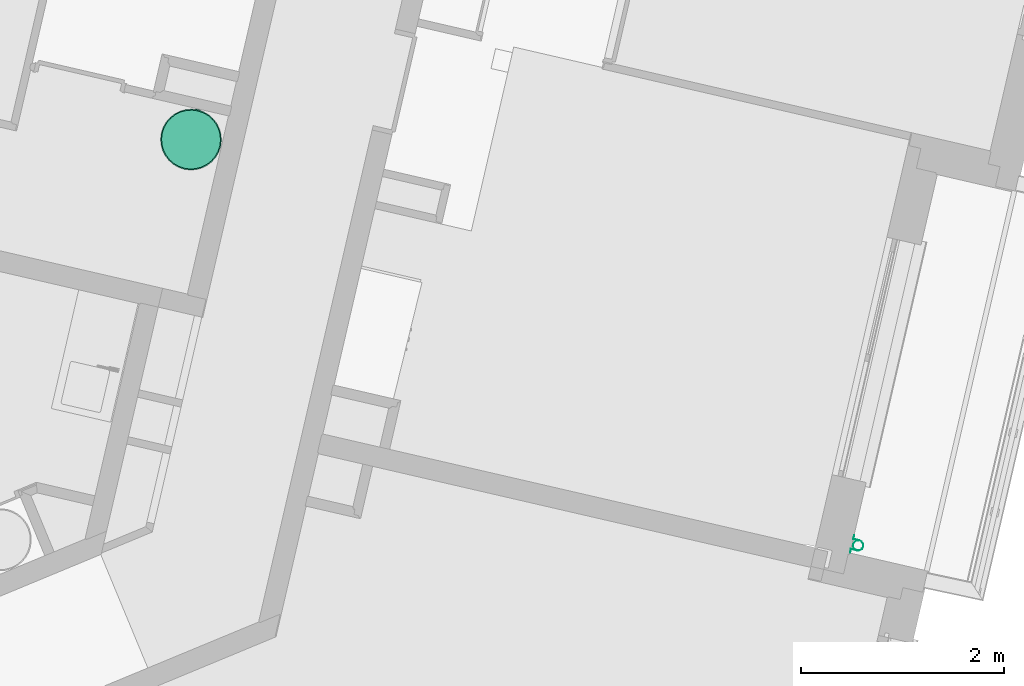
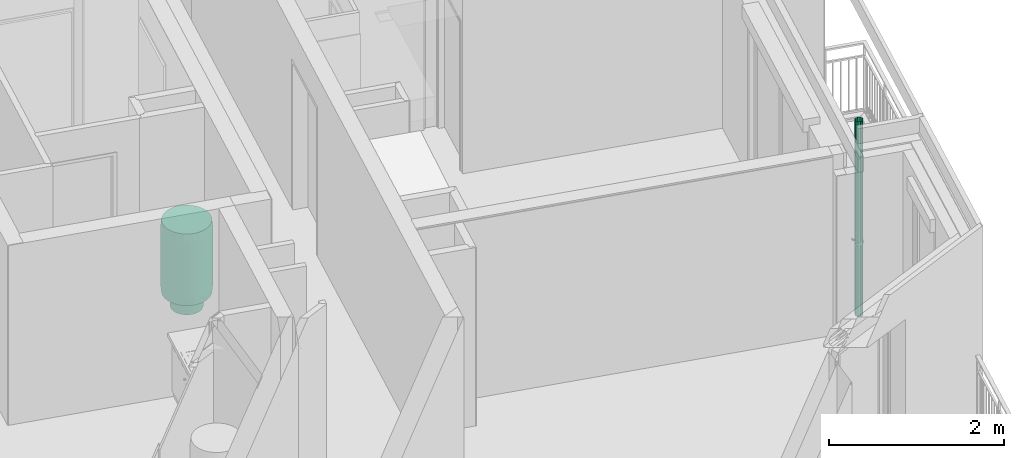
# One storey, part 70 of 91: 1 energy conversion device, 1 flow terminal.
"""IFC2X3 building model written with IfcOpenShell, lengths in metres."""

from ifc_helpers import new_model, entity, si_unit, converted_unit, derived_unit, money_unit, direction, frame, origin_with_axes, place, context, subcontext, project, spatial, open_shell, faceted_brep, surface_model, source, transform, mapped, type_object, element, save


model = new_model("IFC2X3")

# Units and contexts
model_context = context("Model", 3, precision=1e-05, world=origin_with_axes(), true_north=direction((0.0, 1.0)))
body_context = subcontext(model_context, "Body", "Model", "MODEL_VIEW")
ifc_project = project(units=[si_unit("LENGTHUNIT", "METRE"), si_unit("AREAUNIT", "SQUARE_METRE"), si_unit("VOLUMEUNIT", "CUBIC_METRE"), converted_unit("PLANEANGLEUNIT", "DEGREE", entity("IfcPlaneAngleMeasure", 0.0174532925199), si_unit("PLANEANGLEUNIT", "RADIAN"), dimensions=[0, 0, 0, 0, 0, 0, 0]), si_unit("SOLIDANGLEUNIT", "STERADIAN"), money_unit("EUR"), converted_unit("TIMEUNIT", "Year", entity("IfcTimeMeasure", 31556926.0), si_unit("TIMEUNIT", "SECOND"), dimensions=[0, 0, 1, 0, 0, 0, 0]), si_unit("MASSUNIT", "GRAM", prefix="KILO"), si_unit("THERMODYNAMICTEMPERATUREUNIT", "DEGREE_CELSIUS"), si_unit("LUMINOUSINTENSITYUNIT", "LUMEN"), si_unit("ENERGYUNIT", "JOULE", prefix="MEGA"), derived_unit("THERMALCONDUCTANCEUNIT", [(si_unit("POWERUNIT", "WATT"), 1), (si_unit("LENGTHUNIT", "METRE"), -1), (si_unit("THERMODYNAMICTEMPERATUREUNIT", "KELVIN"), -1)]), derived_unit("SPECIFICHEATCAPACITYUNIT", [(si_unit("ENERGYUNIT", "JOULE"), 1), (si_unit("MASSUNIT", "GRAM", prefix="KILO"), -1), (si_unit("THERMODYNAMICTEMPERATUREUNIT", "KELVIN"), -1)]), derived_unit("MASSDENSITYUNIT", [(si_unit("MASSUNIT", "GRAM", prefix="KILO"), 1), (si_unit("VOLUMEUNIT", "CUBIC_METRE"), -1)])], contexts=[model_context])

# Site, building, storey
site_placement = place(None, origin_with_axes())
site = spatial("IfcSite", under=ifc_project, at=site_placement, Name="Site", CompositionType="ELEMENT")
building_placement = place(site_placement, origin_with_axes())
building = spatial("IfcBuilding", under=site, at=building_placement, Name="Bâtiment", CompositionType="ELEMENT")
storey_placement = place(building_placement, frame((0.0, 0.0, 5.44), z_axis=(0.0, 0.0, 1.0), x_axis=(1.0, 0.0, 0.0)))
storey = spatial("IfcBuildingStorey", under=building, at=storey_placement, Name="R+2", CompositionType="ELEMENT", Elevation=5.44)

# Flow terminal
waste_terminal_type = type_object("IfcWasteTerminalType", Name="Tuyau descente 23", PredefinedType="GULLYTRAP")
shared_shape_1 = source(origin_with_axes(), body_context, "Body", "SurfaceModel", [
    surface_model("IfcShellBasedSurfaceModel", [(0.05, -0.0125, 2.7222918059), (0.0433012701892, -0.0375, 2.7222918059), (0.0433012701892, -0.0375, 0.0), (0.05, -0.0125, 0.0), (0.025, -0.0558012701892, 2.7222918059), (0.025, -0.0558012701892, 0.0), (0.0433012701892, 0.0125, 2.7222918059), (0.0433012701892, 0.0125, 0.0), (0.0, -0.0625, 2.7222918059), (0.0, -0.0625, 0.0), (0.025, 0.0308012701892, 2.7222918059), (0.025, 0.0308012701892, 0.0), (-0.025, -0.0558012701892, 2.7222918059), (-0.025, -0.0558012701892, 0.0), (0.0, 0.0375, 2.7222918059), (0.0, 0.0375, 0.0), (-0.0433012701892, -0.0375, 2.7222918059), (-0.0433012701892, -0.0375, 0.0), (-0.025, 0.0308012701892, 2.7222918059), (-0.025, 0.0308012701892, 0.0), (-0.05, -0.0125, 2.7222918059), (-0.05, -0.0125, 0.0), (-0.0433012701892, 0.0125, 2.7222918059), (-0.0433012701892, 0.0125, 0.0)], [open_shell([[[0, 1, 2, 3]], [[1, 4, 5, 2]], [[6, 0, 3, 7]], [[4, 8, 9, 5]], [[10, 6, 7, 11]], [[8, 12, 13, 9]], [[14, 10, 11, 15]], [[12, 16, 17, 13]], [[18, 14, 15, 19]], [[16, 20, 21, 17]], [[22, 18, 19, 23]], [[20, 22, 23, 21]]])]),
    faceted_brep([(-0.09, 0.0479, 1.0), (-0.052, 0.0479, 1.0), (-0.052, 0.0479, 1.03), (-0.09, 0.0479, 1.03), (-0.09, 0.0499, 1.0), (-0.0502, 0.0499, 1.0), (-0.0502, -0.0126, 1.0), (-0.04347447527, -0.0377, 1.0), (-0.0251, -0.05607447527, 1.0), (0.0, -0.0628, 1.0), (0.0251, -0.05607447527, 1.0), (0.04347447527, -0.0377, 1.0), (0.0502, -0.0126, 1.0), (0.0502, 0.0499, 1.0), (0.09, 0.0499, 1.0), (0.09, 0.0479, 1.0), (0.052, 0.0479, 1.0), (0.052, -0.0126, 1.0), (0.0450333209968, -0.0386, 1.0), (0.026, -0.0576333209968, 1.0), (0.0, -0.0646, 1.0), (-0.026, -0.0576333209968, 1.0), (-0.0450333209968, -0.0386, 1.0), (-0.052, -0.0126, 1.0), (-0.052, -0.0126, 1.03), (-0.0450333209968, -0.0386, 1.03), (-0.026, -0.0576333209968, 1.03), (0.0, -0.0646, 1.03), (0.026, -0.0576333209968, 1.03), (0.0450333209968, -0.0386, 1.03), (0.052, -0.0126, 1.03), (0.052, 0.0479, 1.03), (0.09, 0.0479, 1.03), (0.09, 0.0499, 1.03), (0.0502, 0.0499, 1.03), (0.0502, -0.0126, 1.03), (0.04347447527, -0.0377, 1.03), (0.0251, -0.05607447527, 1.03), (0.0, -0.0628, 1.03), (-0.0251, -0.05607447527, 1.03), (-0.04347447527, -0.0377, 1.03), (-0.0502, -0.0126, 1.03), (-0.0502, 0.0499, 1.03), (-0.09, 0.0499, 1.03)], [[[0, 1, 2, 3]], [[0, 4, 5, 6, 7, 8, 9, 10, 11, 12, 13, 14, 15, 16, 17, 18, 19, 20, 21, 22, 23, 1]], [[1, 23, 24, 2]], [[3, 2, 24, 25, 26, 27, 28, 29, 30, 31, 32, 33, 34, 35, 36, 37, 38, 39, 40, 41, 42, 43]], [[4, 0, 3, 43]], [[5, 4, 43, 42]], [[6, 5, 42, 41]], [[7, 6, 41, 40]], [[8, 7, 40, 39]], [[9, 8, 39, 38]], [[10, 9, 38, 37]], [[11, 10, 37, 36]], [[12, 11, 36, 35]], [[13, 12, 35, 34]], [[14, 13, 34, 33]], [[15, 14, 33, 32]], [[16, 15, 32, 31]], [[17, 16, 31, 30]], [[18, 17, 30, 29]], [[19, 18, 29, 28]], [[20, 19, 28, 27]], [[21, 20, 27, 26]], [[22, 21, 26, 25]], [[23, 22, 25, 24]]]),
])
flow_terminal_placement = place(storey_placement, frame((-7.80740943, -17.577922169, 0.0), z_axis=(0.0, 0.0, 1.0), x_axis=(0.224876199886, 0.97438734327, 0.0)))
element("IfcFlowTerminal", 1, at=flow_terminal_placement, inside=storey, type_object=waste_terminal_type, Name="MOB-006", context=body_context, shape_type="MappedRepresentation", body=[
    mapped(shared_shape_1, transform((0.0, 0.0, 0.0))),
])

# Energy conversion device
heat_exchanger_type = type_object("IfcHeatExchangerType", Name="Chauffe-eau électrique 23", PredefinedType="SHELLANDTUBE")
shared_shape_2 = source(origin_with_axes(), body_context, "Body", "SurfaceModel", [
    surface_model("IfcShellBasedSurfaceModel", [(-0.245, -0.0135, 0.2), (-0.245, -0.0135, 0.18), (-0.241505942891, -0.0130399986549, 0.18), (-0.241505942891, -0.0130399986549, 0.2), (-0.248494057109, -0.0130399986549, 0.2), (-0.248494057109, -0.0130399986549, 0.18), (-0.23825, -0.0116913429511, 0.18), (-0.23825, -0.0116913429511, 0.2), (-0.25175, -0.0116913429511, 0.2), (-0.25175, -0.0116913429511, 0.18), (-0.235454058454, -0.00954594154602, 0.18), (-0.235454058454, -0.00954594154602, 0.2), (-0.254545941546, -0.00954594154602, 0.2), (-0.254545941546, -0.00954594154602, 0.18), (-0.233308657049, -0.00675, 0.18), (-0.233308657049, -0.00675, 0.2), (-0.256691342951, -0.00675, 0.2), (-0.256691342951, -0.00675, 0.18), (-0.231960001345, -0.00349405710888, 0.18), (-0.231960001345, -0.00349405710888, 0.2), (-0.258039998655, -0.00349405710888, 0.2), (-0.258039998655, -0.00349405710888, 0.18), (-0.2315, 0.0, 0.18), (-0.2315, 0.0, 0.2), (-0.2585, 0.0, 0.2), (-0.2585, 0.0, 0.18), (-0.231960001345, 0.00349405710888, 0.18), (-0.231960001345, 0.00349405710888, 0.2), (-0.258039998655, 0.00349405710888, 0.2), (-0.258039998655, 0.00349405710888, 0.18), (-0.233308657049, 0.00675, 0.18), (-0.233308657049, 0.00675, 0.2), (-0.256691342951, 0.00675, 0.2), (-0.256691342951, 0.00675, 0.18), (-0.235454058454, 0.00954594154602, 0.18), (-0.235454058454, 0.00954594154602, 0.2), (-0.254545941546, 0.00954594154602, 0.2), (-0.254545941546, 0.00954594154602, 0.18), (-0.23825, 0.0116913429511, 0.18), (-0.23825, 0.0116913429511, 0.2), (-0.25175, 0.0116913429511, 0.2), (-0.25175, 0.0116913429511, 0.18), (-0.241505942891, 0.0130399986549, 0.18), (-0.241505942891, 0.0130399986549, 0.2), (-0.248494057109, 0.0130399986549, 0.2), (-0.248494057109, 0.0130399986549, 0.18), (-0.245, 0.0135, 0.18), (-0.245, 0.0135, 0.2)], [open_shell([[[0, 1, 2, 3]], [[4, 5, 1, 0]], [[3, 2, 6, 7]], [[8, 9, 5, 4]], [[7, 6, 10, 11]], [[12, 13, 9, 8]], [[11, 10, 14, 15]], [[16, 17, 13, 12]], [[15, 14, 18, 19]], [[20, 21, 17, 16]], [[19, 18, 22, 23]], [[24, 25, 21, 20]], [[23, 22, 26, 27]], [[28, 29, 25, 24]], [[27, 26, 30, 31]], [[32, 33, 29, 28]], [[31, 30, 34, 35]], [[36, 37, 33, 32]], [[35, 34, 38, 39]], [[40, 41, 37, 36]], [[39, 38, 42, 43]], [[44, 45, 41, 40]], [[43, 42, 46, 47]], [[47, 46, 45, 44]]])]),
    surface_model("IfcShellBasedSurfaceModel", [(0.245, -0.0135, 0.2), (0.245, -0.0135, 0.18), (0.248494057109, -0.0130399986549, 0.18), (0.248494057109, -0.0130399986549, 0.2), (0.241505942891, -0.0130399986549, 0.2), (0.241505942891, -0.0130399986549, 0.18), (0.25175, -0.0116913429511, 0.18), (0.25175, -0.0116913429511, 0.2), (0.23825, -0.0116913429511, 0.2), (0.23825, -0.0116913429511, 0.18), (0.254545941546, -0.00954594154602, 0.18), (0.254545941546, -0.00954594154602, 0.2), (0.235454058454, -0.00954594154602, 0.2), (0.235454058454, -0.00954594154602, 0.18), (0.256691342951, -0.00675, 0.18), (0.256691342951, -0.00675, 0.2), (0.233308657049, -0.00675, 0.2), (0.233308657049, -0.00675, 0.18), (0.258039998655, -0.00349405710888, 0.18), (0.258039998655, -0.00349405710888, 0.2), (0.231960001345, -0.00349405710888, 0.2), (0.231960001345, -0.00349405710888, 0.18), (0.2585, 0.0, 0.18), (0.2585, 0.0, 0.2), (0.2315, 0.0, 0.2), (0.2315, 0.0, 0.18), (0.258039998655, 0.00349405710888, 0.18), (0.258039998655, 0.00349405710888, 0.2), (0.231960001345, 0.00349405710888, 0.2), (0.231960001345, 0.00349405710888, 0.18), (0.256691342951, 0.00675, 0.18), (0.256691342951, 0.00675, 0.2), (0.233308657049, 0.00675, 0.2), (0.233308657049, 0.00675, 0.18), (0.254545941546, 0.00954594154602, 0.18), (0.254545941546, 0.00954594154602, 0.2), (0.235454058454, 0.00954594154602, 0.2), (0.235454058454, 0.00954594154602, 0.18), (0.25175, 0.0116913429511, 0.18), (0.25175, 0.0116913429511, 0.2), (0.23825, 0.0116913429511, 0.2), (0.23825, 0.0116913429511, 0.18), (0.248494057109, 0.0130399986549, 0.18), (0.248494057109, 0.0130399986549, 0.2), (0.241505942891, 0.0130399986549, 0.2), (0.241505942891, 0.0130399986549, 0.18), (0.245, 0.0135, 0.18), (0.245, 0.0135, 0.2)], [open_shell([[[0, 1, 2, 3]], [[4, 5, 1, 0]], [[3, 2, 6, 7]], [[8, 9, 5, 4]], [[7, 6, 10, 11]], [[12, 13, 9, 8]], [[11, 10, 14, 15]], [[16, 17, 13, 12]], [[15, 14, 18, 19]], [[20, 21, 17, 16]], [[19, 18, 22, 23]], [[24, 25, 21, 20]], [[23, 22, 26, 27]], [[28, 29, 25, 24]], [[27, 26, 30, 31]], [[32, 33, 29, 28]], [[31, 30, 34, 35]], [[36, 37, 33, 32]], [[35, 34, 38, 39]], [[40, 41, 37, 36]], [[39, 38, 42, 43]], [[44, 45, 41, 40]], [[43, 42, 46, 47]], [[47, 46, 45, 44]]])]),
    faceted_brep([(-0.025, -0.305, 0.4), (-0.025, -0.3, 0.4), (0.025, -0.3, 0.4), (0.025, -0.305, 0.4), (-0.025, -0.305, 0.42), (-0.025, -0.3, 0.42), (0.025, -0.3, 0.42), (0.025, -0.305, 0.42)], [[[0, 1, 2, 3]], [[0, 4, 5, 1]], [[1, 5, 6, 2]], [[2, 6, 7, 3]], [[3, 7, 4, 0]], [[7, 6, 5, 4]]]),
    faceted_brep([(0.0222836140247, -0.16, 0.088519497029), (0.02, -0.16, 0.1), (0.0222836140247, -0.16, 0.111480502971), (0.0287867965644, -0.16, 0.121213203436), (0.038519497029, -0.16, 0.127716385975), (0.05, -0.16, 0.13), (0.061480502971, -0.16, 0.127716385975), (0.0712132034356, -0.16, 0.121213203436), (0.0777163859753, -0.16, 0.111480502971), (0.08, -0.16, 0.1), (0.0777163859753, -0.16, 0.088519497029), (0.0712132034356, -0.16, 0.0787867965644), (0.061480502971, -0.16, 0.0722836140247), (0.05, -0.16, 0.07), (0.038519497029, -0.16, 0.0722836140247), (0.0287867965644, -0.16, 0.0787867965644), (0.0222836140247, -0.175, 0.088519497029), (0.02, -0.175, 0.1), (0.0222836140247, -0.175, 0.111480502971), (0.0287867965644, -0.175, 0.121213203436), (0.038519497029, -0.175, 0.127716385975), (0.05, -0.175, 0.13), (0.061480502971, -0.175, 0.127716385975), (0.0712132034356, -0.175, 0.121213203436), (0.0777163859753, -0.175, 0.111480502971), (0.08, -0.175, 0.1), (0.0777163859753, -0.175, 0.088519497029), (0.0712132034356, -0.175, 0.0787867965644), (0.061480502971, -0.175, 0.0722836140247), (0.05, -0.175, 0.07), (0.038519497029, -0.175, 0.0722836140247), (0.0287867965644, -0.175, 0.0787867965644)], [[[0, 1, 2, 3, 4, 5, 6, 7, 8, 9, 10, 11, 12, 13, 14, 15]], [[0, 16, 17, 1]], [[1, 17, 18, 2]], [[2, 18, 19, 3]], [[3, 19, 20, 4]], [[4, 20, 21, 5]], [[5, 21, 22, 6]], [[6, 22, 23, 7]], [[7, 23, 24, 8]], [[8, 24, 25, 9]], [[9, 25, 26, 10]], [[10, 26, 27, 11]], [[11, 27, 28, 12]], [[12, 28, 29, 13]], [[13, 29, 30, 14]], [[14, 30, 31, 15]], [[15, 31, 16, 0]], [[16, 31, 30, 29, 28, 27, 26, 25, 24, 23, 22, 21, 20, 19, 18, 17]]]),
    faceted_brep([(-0.0777163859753, -0.16, 0.088519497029), (-0.08, -0.16, 0.1), (-0.0777163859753, -0.16, 0.111480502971), (-0.0712132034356, -0.16, 0.121213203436), (-0.061480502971, -0.16, 0.127716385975), (-0.05, -0.16, 0.13), (-0.038519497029, -0.16, 0.127716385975), (-0.0287867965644, -0.16, 0.121213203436), (-0.0222836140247, -0.16, 0.111480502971), (-0.02, -0.16, 0.1), (-0.0222836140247, -0.16, 0.088519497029), (-0.0287867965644, -0.16, 0.0787867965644), (-0.038519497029, -0.16, 0.0722836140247), (-0.05, -0.16, 0.07), (-0.061480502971, -0.16, 0.0722836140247), (-0.0712132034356, -0.16, 0.0787867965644), (-0.0777163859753, -0.175, 0.088519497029), (-0.08, -0.175, 0.1), (-0.0777163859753, -0.175, 0.111480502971), (-0.0712132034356, -0.175, 0.121213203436), (-0.061480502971, -0.175, 0.127716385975), (-0.05, -0.175, 0.13), (-0.038519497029, -0.175, 0.127716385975), (-0.0287867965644, -0.175, 0.121213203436), (-0.0222836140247, -0.175, 0.111480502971), (-0.02, -0.175, 0.1), (-0.0222836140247, -0.175, 0.088519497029), (-0.0287867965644, -0.175, 0.0787867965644), (-0.038519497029, -0.175, 0.0722836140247), (-0.05, -0.175, 0.07), (-0.061480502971, -0.175, 0.0722836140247), (-0.0712132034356, -0.175, 0.0787867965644)], [[[0, 1, 2, 3, 4, 5, 6, 7, 8, 9, 10, 11, 12, 13, 14, 15]], [[0, 16, 17, 1]], [[1, 17, 18, 2]], [[2, 18, 19, 3]], [[3, 19, 20, 4]], [[4, 20, 21, 5]], [[5, 21, 22, 6]], [[6, 22, 23, 7]], [[7, 23, 24, 8]], [[8, 24, 25, 9]], [[9, 25, 26, 10]], [[10, 26, 27, 11]], [[11, 27, 28, 12]], [[12, 28, 29, 13]], [[13, 29, 30, 14]], [[14, 30, 31, 15]], [[15, 31, 16, 0]], [[16, 31, 30, 29, 28, 27, 26, 25, 24, 23, 22, 21, 20, 19, 18, 17]]]),
    faceted_brep([(-0.186349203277, -0.0370671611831, 0.0), (-0.196157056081, -0.0390180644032, 0.2), (-0.2, 0.0, 0.2), (-0.19, 0.0, 0.0), (-0.175537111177, -0.0727098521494, 0.0), (-0.184775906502, -0.076536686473, 0.2), (-0.166293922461, -0.111114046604, 0.2), (-0.141421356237, -0.141421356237, 0.2), (-0.118783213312, -0.16, 0.2), (0.118783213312, -0.16, 0.2), (0.141421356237, -0.141421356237, 0.2), (0.166293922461, -0.111114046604, 0.2), (0.184775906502, -0.076536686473, 0.2), (0.196157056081, -0.0390180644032, 0.2), (0.2, 0.0, 0.2), (0.196157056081, 0.0390180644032, 0.2), (0.184775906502, 0.076536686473, 0.2), (0.166293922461, 0.111114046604, 0.2), (0.141421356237, 0.141421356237, 0.2), (0.111114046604, 0.166293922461, 0.2), (0.076536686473, 0.184775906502, 0.2), (0.0390180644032, 0.196157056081, 0.2), (0.0, 0.2, 0.2), (-0.0390180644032, 0.196157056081, 0.2), (-0.076536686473, 0.184775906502, 0.2), (-0.111114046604, 0.166293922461, 0.2), (-0.141421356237, 0.141421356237, 0.2), (-0.166293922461, 0.111114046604, 0.2), (-0.184775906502, 0.076536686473, 0.2), (-0.196157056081, 0.0390180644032, 0.2), (-0.186349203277, 0.0370671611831, 0.0), (-0.175537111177, 0.0727098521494, 0.0), (-0.157979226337, 0.105558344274, 0.0), (-0.134350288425, 0.134350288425, 0.0), (-0.105558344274, 0.157979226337, 0.0), (-0.0727098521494, 0.175537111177, 0.0), (-0.0370671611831, 0.186349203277, 0.0), (0.0, 0.19, 0.0), (0.0370671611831, 0.186349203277, 0.0), (0.0727098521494, 0.175537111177, 0.0), (0.105558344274, 0.157979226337, 0.0), (0.134350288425, 0.134350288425, 0.0), (0.157979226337, 0.105558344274, 0.0), (0.175537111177, 0.0727098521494, 0.0), (0.186349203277, 0.0370671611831, 0.0), (0.19, 0.0, 0.0), (0.186349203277, -0.0370671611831, 0.0), (0.175537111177, -0.0727098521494, 0.0), (0.157979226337, -0.105558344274, 0.0), (0.134350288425, -0.134350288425, 0.0), (0.105558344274, -0.157979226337, 0.0), (0.101777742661, -0.16, 0.0), (-0.101777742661, -0.16, 0.0), (-0.105558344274, -0.157979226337, 0.0), (-0.134350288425, -0.134350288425, 0.0), (-0.157979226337, -0.105558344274, 0.0), (-0.106908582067, -0.16, 0.0486072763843), (0.106908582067, -0.16, 0.0486072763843)], [[[0, 1, 2, 3]], [[4, 5, 1, 0]], [[1, 5, 6, 7, 8, 9, 10, 11, 12, 13, 14, 15, 16, 17, 18, 19, 20, 21, 22, 23, 24, 25, 26, 27, 28, 29, 2]], [[3, 2, 29, 30]], [[0, 3, 30, 31, 32, 33, 34, 35, 36, 37, 38, 39, 40, 41, 42, 43, 44, 45, 46, 47, 48, 49, 50, 51, 52, 53, 54, 55, 4]], [[55, 6, 5, 4]], [[54, 7, 6, 55]], [[53, 56, 8, 7, 54]], [[51, 57, 9, 8, 56, 52]], [[49, 10, 9, 57, 50]], [[48, 11, 10, 49]], [[47, 12, 11, 48]], [[46, 13, 12, 47]], [[45, 14, 13, 46]], [[44, 15, 14, 45]], [[43, 16, 15, 44]], [[42, 17, 16, 43]], [[41, 18, 17, 42]], [[40, 19, 18, 41]], [[39, 20, 19, 40]], [[38, 21, 20, 39]], [[37, 22, 21, 38]], [[36, 23, 22, 37]], [[35, 24, 23, 36]], [[34, 25, 24, 35]], [[33, 26, 25, 34]], [[32, 27, 26, 33]], [[31, 28, 27, 32]], [[30, 29, 28, 31]], [[50, 57, 51]], [[52, 56, 53]]]),
    faceted_brep([(-0.284427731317, -0.0565761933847, 0.2), (-0.294235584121, -0.0585270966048, 0.3), (-0.3, 0.0, 0.3), (-0.29, 0.0, 0.2), (-0.267925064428, -0.110978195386, 0.2), (-0.277163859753, -0.11480502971, 0.3), (-0.249440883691, -0.166671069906, 0.3), (-0.212132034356, -0.212132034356, 0.3), (-0.166671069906, -0.249440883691, 0.3), (-0.11480502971, -0.277163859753, 0.3), (-0.0585270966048, -0.294235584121, 0.3), (0.0, -0.3, 0.3), (0.0585270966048, -0.294235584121, 0.3), (0.11480502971, -0.277163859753, 0.3), (0.166671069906, -0.249440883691, 0.3), (0.212132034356, -0.212132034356, 0.3), (0.249440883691, -0.166671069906, 0.3), (0.277163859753, -0.11480502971, 0.3), (0.294235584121, -0.0585270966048, 0.3), (0.3, 0.0, 0.3), (0.294235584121, 0.0585270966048, 0.3), (0.277163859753, 0.11480502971, 0.3), (0.249440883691, 0.166671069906, 0.3), (0.212132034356, 0.212132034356, 0.3), (0.166671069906, 0.249440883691, 0.3), (0.11480502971, 0.277163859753, 0.3), (0.0585270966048, 0.294235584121, 0.3), (0.0, 0.3, 0.3), (-0.0585270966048, 0.294235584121, 0.3), (-0.11480502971, 0.277163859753, 0.3), (-0.166671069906, 0.249440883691, 0.3), (-0.212132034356, 0.212132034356, 0.3), (-0.249440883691, 0.166671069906, 0.3), (-0.277163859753, 0.11480502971, 0.3), (-0.294235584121, 0.0585270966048, 0.3), (-0.284427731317, 0.0565761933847, 0.2), (-0.267925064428, 0.110978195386, 0.2), (-0.241126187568, 0.161115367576, 0.2), (-0.205060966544, 0.205060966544, 0.2), (-0.161115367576, 0.241126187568, 0.2), (-0.110978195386, 0.267925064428, 0.2), (-0.0565761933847, 0.284427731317, 0.2), (0.0, 0.29, 0.2), (0.0565761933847, 0.284427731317, 0.2), (0.110978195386, 0.267925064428, 0.2), (0.161115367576, 0.241126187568, 0.2), (0.205060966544, 0.205060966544, 0.2), (0.241126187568, 0.161115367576, 0.2), (0.267925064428, 0.110978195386, 0.2), (0.284427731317, 0.0565761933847, 0.2), (0.29, 0.0, 0.2), (0.284427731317, -0.0565761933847, 0.2), (0.267925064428, -0.110978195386, 0.2), (0.241126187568, -0.161115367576, 0.2), (0.205060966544, -0.205060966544, 0.2), (0.161115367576, -0.241126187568, 0.2), (0.110978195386, -0.267925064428, 0.2), (0.0565761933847, -0.284427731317, 0.2), (0.0, -0.29, 0.2), (-0.0565761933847, -0.284427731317, 0.2), (-0.110978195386, -0.267925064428, 0.2), (-0.161115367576, -0.241126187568, 0.2), (-0.205060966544, -0.205060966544, 0.2), (-0.241126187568, -0.161115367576, 0.2)], [[[0, 1, 2, 3]], [[4, 5, 1, 0]], [[1, 5, 6, 7, 8, 9, 10, 11, 12, 13, 14, 15, 16, 17, 18, 19, 20, 21, 22, 23, 24, 25, 26, 27, 28, 29, 30, 31, 32, 33, 34, 2]], [[3, 2, 34, 35]], [[0, 3, 35, 36, 37, 38, 39, 40, 41, 42, 43, 44, 45, 46, 47, 48, 49, 50, 51, 52, 53, 54, 55, 56, 57, 58, 59, 60, 61, 62, 63, 4]], [[63, 6, 5, 4]], [[62, 7, 6, 63]], [[61, 8, 7, 62]], [[60, 9, 8, 61]], [[59, 10, 9, 60]], [[58, 11, 10, 59]], [[57, 12, 11, 58]], [[56, 13, 12, 57]], [[55, 14, 13, 56]], [[54, 15, 14, 55]], [[53, 16, 15, 54]], [[52, 17, 16, 53]], [[51, 18, 17, 52]], [[50, 19, 18, 51]], [[49, 20, 19, 50]], [[48, 21, 20, 49]], [[47, 22, 21, 48]], [[46, 23, 22, 47]], [[45, 24, 23, 46]], [[44, 25, 24, 45]], [[43, 26, 25, 44]], [[42, 27, 26, 43]], [[41, 28, 27, 42]], [[40, 29, 28, 41]], [[39, 30, 29, 40]], [[38, 31, 30, 39]], [[37, 32, 31, 38]], [[36, 33, 32, 37]], [[35, 34, 33, 36]]]),
    faceted_brep([(-0.294235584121, -0.0585270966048, 0.3), (-0.3, 0.0, 0.3), (-0.294235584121, 0.0585270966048, 0.3), (-0.277163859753, 0.11480502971, 0.3), (-0.249440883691, 0.166671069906, 0.3), (-0.212132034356, 0.212132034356, 0.3), (-0.166671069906, 0.249440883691, 0.3), (-0.11480502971, 0.277163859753, 0.3), (-0.0585270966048, 0.294235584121, 0.3), (0.0, 0.3, 0.3), (0.0585270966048, 0.294235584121, 0.3), (0.11480502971, 0.277163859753, 0.3), (0.166671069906, 0.249440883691, 0.3), (0.212132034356, 0.212132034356, 0.3), (0.249440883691, 0.166671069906, 0.3), (0.277163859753, 0.11480502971, 0.3), (0.294235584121, 0.0585270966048, 0.3), (0.3, 0.0, 0.3), (0.294235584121, -0.0585270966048, 0.3), (0.277163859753, -0.11480502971, 0.3), (0.249440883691, -0.166671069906, 0.3), (0.212132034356, -0.212132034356, 0.3), (0.166671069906, -0.249440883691, 0.3), (0.11480502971, -0.277163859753, 0.3), (0.0585270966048, -0.294235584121, 0.3), (0.0, -0.3, 0.3), (-0.0585270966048, -0.294235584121, 0.3), (-0.11480502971, -0.277163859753, 0.3), (-0.166671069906, -0.249440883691, 0.3), (-0.212132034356, -0.212132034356, 0.3), (-0.249440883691, -0.166671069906, 0.3), (-0.277163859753, -0.11480502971, 0.3), (-0.294235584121, -0.0585270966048, 1.1), (-0.3, 0.0, 1.1), (-0.294235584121, 0.0585270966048, 1.1), (-0.277163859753, 0.11480502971, 1.1), (-0.249440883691, 0.166671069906, 1.1), (-0.212132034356, 0.212132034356, 1.1), (-0.166671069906, 0.249440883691, 1.1), (-0.11480502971, 0.277163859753, 1.1), (-0.0585270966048, 0.294235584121, 1.1), (0.0, 0.3, 1.1), (0.0585270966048, 0.294235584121, 1.1), (0.11480502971, 0.277163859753, 1.1), (0.166671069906, 0.249440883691, 1.1), (0.212132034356, 0.212132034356, 1.1), (0.249440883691, 0.166671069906, 1.1), (0.277163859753, 0.11480502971, 1.1), (0.294235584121, 0.0585270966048, 1.1), (0.3, 0.0, 1.1), (0.294235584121, -0.0585270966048, 1.1), (0.277163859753, -0.11480502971, 1.1), (0.249440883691, -0.166671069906, 1.1), (0.212132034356, -0.212132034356, 1.1), (0.166671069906, -0.249440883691, 1.1), (0.11480502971, -0.277163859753, 1.1), (0.0585270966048, -0.294235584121, 1.1), (0.0, -0.3, 1.1), (-0.0585270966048, -0.294235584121, 1.1), (-0.11480502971, -0.277163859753, 1.1), (-0.166671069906, -0.249440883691, 1.1), (-0.212132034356, -0.212132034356, 1.1), (-0.249440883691, -0.166671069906, 1.1), (-0.277163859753, -0.11480502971, 1.1)], [[[0, 1, 2, 3, 4, 5, 6, 7, 8, 9, 10, 11, 12, 13, 14, 15, 16, 17, 18, 19, 20, 21, 22, 23, 24, 25, 26, 27, 28, 29, 30, 31]], [[0, 32, 33, 1]], [[1, 33, 34, 2]], [[2, 34, 35, 3]], [[3, 35, 36, 4]], [[4, 36, 37, 5]], [[5, 37, 38, 6]], [[6, 38, 39, 7]], [[7, 39, 40, 8]], [[8, 40, 41, 9]], [[9, 41, 42, 10]], [[10, 42, 43, 11]], [[11, 43, 44, 12]], [[12, 44, 45, 13]], [[13, 45, 46, 14]], [[14, 46, 47, 15]], [[15, 47, 48, 16]], [[16, 48, 49, 17]], [[17, 49, 50, 18]], [[18, 50, 51, 19]], [[19, 51, 52, 20]], [[20, 52, 53, 21]], [[21, 53, 54, 22]], [[22, 54, 55, 23]], [[23, 55, 56, 24]], [[24, 56, 57, 25]], [[25, 57, 58, 26]], [[26, 58, 59, 27]], [[27, 59, 60, 28]], [[28, 60, 61, 29]], [[29, 61, 62, 30]], [[30, 62, 63, 31]], [[31, 63, 32, 0]], [[32, 63, 62, 61, 60, 59, 58, 57, 56, 55, 54, 53, 52, 51, 50, 49, 48, 47, 46, 45, 44, 43, 42, 41, 40, 39, 38, 37, 36, 35, 34, 33]]]),
    faceted_brep([(-0.294235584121, -0.0585270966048, 1.1), (-0.284427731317, -0.0565761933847, 1.2), (-0.29, 0.0, 1.2), (-0.3, 0.0, 1.1), (-0.277163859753, -0.11480502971, 1.1), (-0.267925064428, -0.110978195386, 1.2), (-0.241126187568, -0.161115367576, 1.2), (-0.205060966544, -0.205060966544, 1.2), (-0.161115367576, -0.241126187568, 1.2), (-0.110978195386, -0.267925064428, 1.2), (-0.0565761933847, -0.284427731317, 1.2), (0.0, -0.29, 1.2), (0.0565761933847, -0.284427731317, 1.2), (0.110978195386, -0.267925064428, 1.2), (0.161115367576, -0.241126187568, 1.2), (0.205060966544, -0.205060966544, 1.2), (0.241126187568, -0.161115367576, 1.2), (0.267925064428, -0.110978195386, 1.2), (0.284427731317, -0.0565761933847, 1.2), (0.29, 0.0, 1.2), (0.284427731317, 0.0565761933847, 1.2), (0.267925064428, 0.110978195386, 1.2), (0.241126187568, 0.161115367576, 1.2), (0.205060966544, 0.205060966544, 1.2), (0.161115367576, 0.241126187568, 1.2), (0.110978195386, 0.267925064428, 1.2), (0.0565761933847, 0.284427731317, 1.2), (0.0, 0.29, 1.2), (-0.0565761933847, 0.284427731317, 1.2), (-0.110978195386, 0.267925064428, 1.2), (-0.161115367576, 0.241126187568, 1.2), (-0.205060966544, 0.205060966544, 1.2), (-0.241126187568, 0.161115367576, 1.2), (-0.267925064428, 0.110978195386, 1.2), (-0.284427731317, 0.0565761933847, 1.2), (-0.294235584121, 0.0585270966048, 1.1), (-0.277163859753, 0.11480502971, 1.1), (-0.249440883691, 0.166671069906, 1.1), (-0.212132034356, 0.212132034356, 1.1), (-0.166671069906, 0.249440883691, 1.1), (-0.11480502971, 0.277163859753, 1.1), (-0.0585270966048, 0.294235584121, 1.1), (0.0, 0.3, 1.1), (0.0585270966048, 0.294235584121, 1.1), (0.11480502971, 0.277163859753, 1.1), (0.166671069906, 0.249440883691, 1.1), (0.212132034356, 0.212132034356, 1.1), (0.249440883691, 0.166671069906, 1.1), (0.277163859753, 0.11480502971, 1.1), (0.294235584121, 0.0585270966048, 1.1), (0.3, 0.0, 1.1), (0.294235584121, -0.0585270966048, 1.1), (0.277163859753, -0.11480502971, 1.1), (0.249440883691, -0.166671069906, 1.1), (0.212132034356, -0.212132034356, 1.1), (0.166671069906, -0.249440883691, 1.1), (0.11480502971, -0.277163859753, 1.1), (0.0585270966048, -0.294235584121, 1.1), (0.0, -0.3, 1.1), (-0.0585270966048, -0.294235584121, 1.1), (-0.11480502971, -0.277163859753, 1.1), (-0.166671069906, -0.249440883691, 1.1), (-0.212132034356, -0.212132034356, 1.1), (-0.249440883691, -0.166671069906, 1.1)], [[[0, 1, 2, 3]], [[4, 5, 1, 0]], [[1, 5, 6, 7, 8, 9, 10, 11, 12, 13, 14, 15, 16, 17, 18, 19, 20, 21, 22, 23, 24, 25, 26, 27, 28, 29, 30, 31, 32, 33, 34, 2]], [[3, 2, 34, 35]], [[0, 3, 35, 36, 37, 38, 39, 40, 41, 42, 43, 44, 45, 46, 47, 48, 49, 50, 51, 52, 53, 54, 55, 56, 57, 58, 59, 60, 61, 62, 63, 4]], [[63, 6, 5, 4]], [[62, 7, 6, 63]], [[61, 8, 7, 62]], [[60, 9, 8, 61]], [[59, 10, 9, 60]], [[58, 11, 10, 59]], [[57, 12, 11, 58]], [[56, 13, 12, 57]], [[55, 14, 13, 56]], [[54, 15, 14, 55]], [[53, 16, 15, 54]], [[52, 17, 16, 53]], [[51, 18, 17, 52]], [[50, 19, 18, 51]], [[49, 20, 19, 50]], [[48, 21, 20, 49]], [[47, 22, 21, 48]], [[46, 23, 22, 47]], [[45, 24, 23, 46]], [[44, 25, 24, 45]], [[43, 26, 25, 44]], [[42, 27, 26, 43]], [[41, 28, 27, 42]], [[40, 29, 28, 41]], [[39, 30, 29, 40]], [[38, 31, 30, 39]], [[37, 32, 31, 38]], [[36, 33, 32, 37]], [[35, 34, 33, 36]]]),
])
energy_conversion_device_placement = place(storey_placement, frame((-14.3666768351, -13.5836312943, 0.0), z_axis=(0.0, 0.0, 1.0), x_axis=(-0.97438734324, 0.224876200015, 0.0)))
element("IfcEnergyConversionDevice", 2, at=energy_conversion_device_placement, inside=storey, type_object=heat_exchanger_type, Name="MOB-002", context=body_context, shape_type="MappedRepresentation", body=[
    mapped(shared_shape_2, transform((0.0, 0.0, 0.0))),
])

save(model, "model.ifc")
